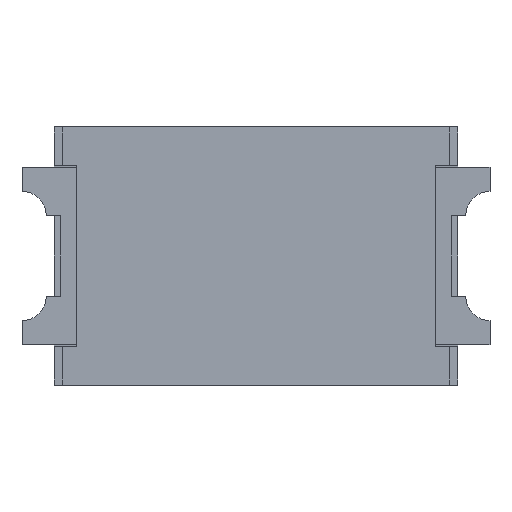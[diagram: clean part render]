
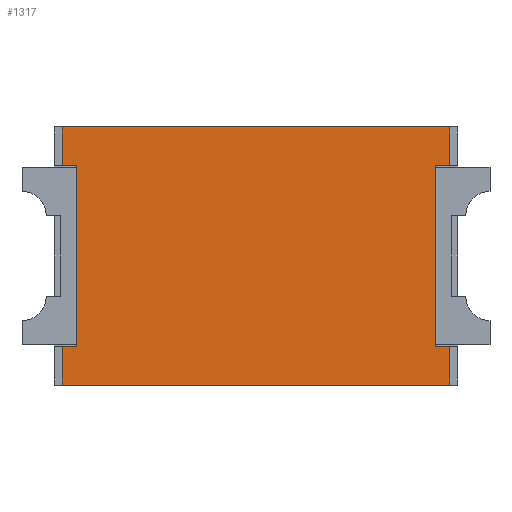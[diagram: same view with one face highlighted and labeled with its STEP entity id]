
A CAD part, front view. The second image highlights one B-rep face of the part: STEP entity #1317.
In plain terms, the highlighted planar face has unit normal (0, -1, 0).
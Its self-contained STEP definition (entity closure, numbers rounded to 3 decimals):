
#26=DIRECTION('',(1.,0.,0.));
#27=VECTOR('',#26,0.09);
#28=CARTESIAN_POINT('',(-1.2,0.,-0.56));
#29=LINE('',#28,#27);
#33=DIRECTION('',(0.,0.,1.));
#34=VECTOR('',#33,1.12);
#35=CARTESIAN_POINT('',(-1.11,0.,-0.56));
#36=LINE('',#35,#34);
#40=DIRECTION('',(1.,0.,0.));
#41=VECTOR('',#40,0.09);
#42=CARTESIAN_POINT('',(-1.2,0.,0.56));
#43=LINE('',#42,#41);
#47=DIRECTION('',(0.,0.,-1.));
#48=VECTOR('',#47,0.24);
#49=CARTESIAN_POINT('',(-1.2,0.,0.8));
#50=LINE('',#49,#48);
#54=DIRECTION('',(1.,0.,0.));
#55=VECTOR('',#54,2.4);
#56=CARTESIAN_POINT('',(-1.2,0.,0.8));
#57=LINE('',#56,#55);
#61=DIRECTION('',(0.,0.,1.));
#62=VECTOR('',#61,0.24);
#63=CARTESIAN_POINT('',(1.2,0.,0.56));
#64=LINE('',#63,#62);
#68=DIRECTION('',(-1.,0.,0.));
#69=VECTOR('',#68,0.09);
#70=CARTESIAN_POINT('',(1.2,0.,0.56));
#71=LINE('',#70,#69);
#75=DIRECTION('',(0.,0.,-1.));
#76=VECTOR('',#75,1.12);
#77=CARTESIAN_POINT('',(1.11,0.,0.56));
#78=LINE('',#77,#76);
#82=DIRECTION('',(-1.,0.,0.));
#83=VECTOR('',#82,0.09);
#84=CARTESIAN_POINT('',(1.2,0.,-0.56));
#85=LINE('',#84,#83);
#89=DIRECTION('',(0.,0.,1.));
#90=VECTOR('',#89,0.24);
#91=CARTESIAN_POINT('',(1.2,0.,-0.8));
#92=LINE('',#91,#90);
#96=DIRECTION('',(1.,0.,0.));
#97=VECTOR('',#96,2.4);
#98=CARTESIAN_POINT('',(-1.2,0.,-0.8));
#99=LINE('',#98,#97);
#103=DIRECTION('',(0.,0.,-1.));
#104=VECTOR('',#103,0.24);
#105=CARTESIAN_POINT('',(-1.2,0.,-0.56));
#106=LINE('',#105,#104);
#1094=CARTESIAN_POINT('',(-1.2,0.,0.8));
#1095=CARTESIAN_POINT('',(1.2,0.,0.8));
#1096=VERTEX_POINT('',#1094);
#1097=VERTEX_POINT('',#1095);
#1098=CARTESIAN_POINT('',(-1.2,0.,-0.8));
#1099=CARTESIAN_POINT('',(1.2,0.,-0.8));
#1100=VERTEX_POINT('',#1098);
#1101=VERTEX_POINT('',#1099);
#1202=CARTESIAN_POINT('',(-1.2,0.,-0.56));
#1203=CARTESIAN_POINT('',(-1.11,0.,-0.56));
#1204=VERTEX_POINT('',#1202);
#1205=VERTEX_POINT('',#1203);
#1206=CARTESIAN_POINT('',(-1.11,0.,0.56));
#1207=VERTEX_POINT('',#1206);
#1208=CARTESIAN_POINT('',(-1.2,0.,0.56));
#1209=VERTEX_POINT('',#1208);
#1210=CARTESIAN_POINT('',(1.2,0.,0.56));
#1211=CARTESIAN_POINT('',(1.11,0.,0.56));
#1212=VERTEX_POINT('',#1210);
#1213=VERTEX_POINT('',#1211);
#1214=CARTESIAN_POINT('',(1.11,0.,-0.56));
#1215=VERTEX_POINT('',#1214);
#1216=CARTESIAN_POINT('',(1.2,0.,-0.56));
#1217=VERTEX_POINT('',#1216);
#1286=CARTESIAN_POINT('',(0.,0.,0.));
#1287=DIRECTION('',(0.,1.,0.));
#1288=DIRECTION('',(1.,0.,0.));
#1289=AXIS2_PLACEMENT_3D('',#1286,#1287,#1288);
#1290=PLANE('',#1289);
#1292=ORIENTED_EDGE('',*,*,#1291,.T.);
#1294=ORIENTED_EDGE('',*,*,#1293,.T.);
#1296=ORIENTED_EDGE('',*,*,#1295,.F.);
#1298=ORIENTED_EDGE('',*,*,#1297,.F.);
#1300=ORIENTED_EDGE('',*,*,#1299,.T.);
#1302=ORIENTED_EDGE('',*,*,#1301,.F.);
#1304=ORIENTED_EDGE('',*,*,#1303,.T.);
#1306=ORIENTED_EDGE('',*,*,#1305,.T.);
#1308=ORIENTED_EDGE('',*,*,#1307,.F.);
#1310=ORIENTED_EDGE('',*,*,#1309,.F.);
#1312=ORIENTED_EDGE('',*,*,#1311,.F.);
#1314=ORIENTED_EDGE('',*,*,#1313,.F.);
#1315=EDGE_LOOP('',(#1292,#1294,#1296,#1298,#1300,#1302,#1304,#1306,#1308,#1310,
#1312,#1314));
#1316=FACE_OUTER_BOUND('',#1315,.F.);
#1291=EDGE_CURVE('',#1204,#1205,#29,.T.);
#1293=EDGE_CURVE('',#1205,#1207,#36,.T.);
#1295=EDGE_CURVE('',#1209,#1207,#43,.T.);
#1297=EDGE_CURVE('',#1096,#1209,#50,.T.);
#1299=EDGE_CURVE('',#1096,#1097,#57,.T.);
#1301=EDGE_CURVE('',#1212,#1097,#64,.T.);
#1303=EDGE_CURVE('',#1212,#1213,#71,.T.);
#1305=EDGE_CURVE('',#1213,#1215,#78,.T.);
#1307=EDGE_CURVE('',#1217,#1215,#85,.T.);
#1309=EDGE_CURVE('',#1101,#1217,#92,.T.);
#1311=EDGE_CURVE('',#1100,#1101,#99,.T.);
#1313=EDGE_CURVE('',#1204,#1100,#106,.T.);
#1317=ADVANCED_FACE('',(#1316),#1290,.F.);
